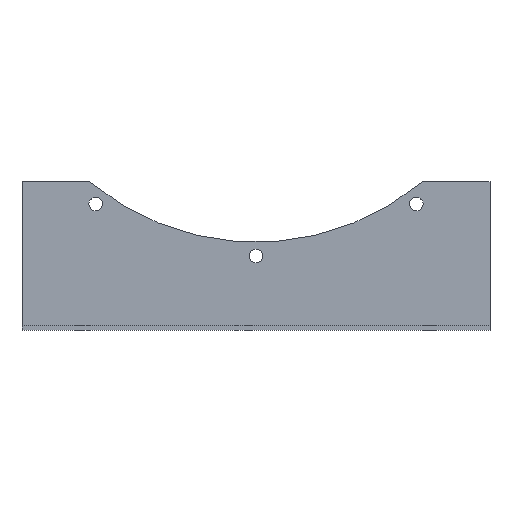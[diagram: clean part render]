
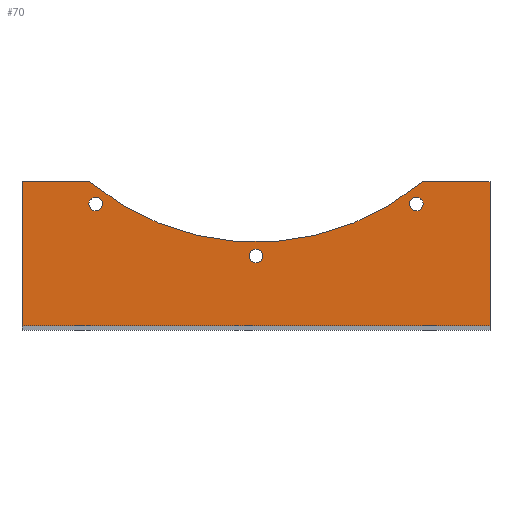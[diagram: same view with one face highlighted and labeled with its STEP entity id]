
A CAD part, top view. The second image highlights one B-rep face of the part: STEP entity #70.
In plain terms, the highlighted planar face has unit normal (0, 0, 1).
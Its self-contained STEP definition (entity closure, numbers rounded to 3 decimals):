
#70=ADVANCED_FACE('',(#143,#144,#145,#146),#147,.T.);
#143=FACE_BOUND('',#220,.T.);
#144=FACE_BOUND('',#221,.T.);
#145=FACE_BOUND('',#222,.T.);
#146=FACE_OUTER_BOUND('',#223,.T.);
#147=PLANE('',#224);
#220=EDGE_LOOP('',(#361,#362));
#221=EDGE_LOOP('',(#363,#364));
#222=EDGE_LOOP('',(#365,#366));
#223=EDGE_LOOP('',(#367,#368,#369,#370,#371,#372));
#224=AXIS2_PLACEMENT_3D('',#373,#374,#375);
#361=ORIENTED_EDGE('',*,*,#458,.T.);
#362=ORIENTED_EDGE('',*,*,#463,.T.);
#363=ORIENTED_EDGE('',*,*,#453,.T.);
#364=ORIENTED_EDGE('',*,*,#466,.T.);
#365=ORIENTED_EDGE('',*,*,#448,.T.);
#366=ORIENTED_EDGE('',*,*,#469,.T.);
#367=ORIENTED_EDGE('',*,*,#471,.T.);
#368=ORIENTED_EDGE('',*,*,#491,.F.);
#369=ORIENTED_EDGE('',*,*,#492,.F.);
#370=ORIENTED_EDGE('',*,*,#493,.F.);
#371=ORIENTED_EDGE('',*,*,#494,.F.);
#372=ORIENTED_EDGE('',*,*,#482,.F.);
#373=CARTESIAN_POINT('',(0.0,4.0,-8.0));
#374=DIRECTION('',(0.0,0.0,1.0));
#375=DIRECTION('',(1.0,0.0,0.0));
#448=EDGE_CURVE('',#532,#529,#533,.T.);
#453=EDGE_CURVE('',#541,#538,#542,.T.);
#458=EDGE_CURVE('',#550,#547,#551,.T.);
#463=EDGE_CURVE('',#547,#550,#557,.T.);
#466=EDGE_CURVE('',#538,#541,#560,.T.);
#469=EDGE_CURVE('',#529,#532,#563,.T.);
#471=EDGE_CURVE('',#565,#566,#567,.T.);
#482=EDGE_CURVE('',#565,#584,#585,.T.);
#491=EDGE_CURVE('',#594,#566,#595,.T.);
#492=EDGE_CURVE('',#596,#594,#597,.T.);
#493=EDGE_CURVE('',#598,#596,#599,.T.);
#494=EDGE_CURVE('',#584,#598,#600,.T.);
#529=VERTEX_POINT('',#643);
#532=VERTEX_POINT('',#647);
#533=CIRCLE('',#648,6.25);
#538=VERTEX_POINT('',#654);
#541=VERTEX_POINT('',#658);
#542=CIRCLE('',#659,6.25);
#547=VERTEX_POINT('',#665);
#550=VERTEX_POINT('',#669);
#551=CIRCLE('',#670,6.25);
#557=CIRCLE('',#677,6.25);
#560=CIRCLE('',#680,6.25);
#563=CIRCLE('',#683,6.25);
#565=VERTEX_POINT('',#685);
#566=VERTEX_POINT('',#686);
#567=CIRCLE('',#687,235.0);
#584=VERTEX_POINT('',#711);
#585=LINE('',#712,#713);
#594=VERTEX_POINT('',#723);
#595=LINE('',#724,#725);
#596=VERTEX_POINT('',#726);
#597=LINE('',#727,#728);
#598=VERTEX_POINT('',#729);
#599=LINE('',#730,#731);
#600=LINE('',#732,#733);
#643=CARTESIAN_POINT('',(6.25,0.,-8.0));
#647=CARTESIAN_POINT('',(-6.25,0.,-8.0));
#648=AXIS2_PLACEMENT_3D('',#779,#780,#781);
#654=CARTESIAN_POINT('',(150.533,50.942,-8.0));
#658=CARTESIAN_POINT('',(140.42,43.595,-8.0));
#659=AXIS2_PLACEMENT_3D('',#787,#788,#789);
#665=CARTESIAN_POINT('',(-140.42,43.595,-8.0));
#669=CARTESIAN_POINT('',(-150.533,50.942,-8.0));
#670=AXIS2_PLACEMENT_3D('',#795,#796,#797);
#677=AXIS2_PLACEMENT_3D('',#805,#806,#807);
#680=AXIS2_PLACEMENT_3D('',#811,#812,#813);
#683=AXIS2_PLACEMENT_3D('',#817,#818,#819);
#685=CARTESIAN_POINT('',(151.079,67.5,-8.0));
#686=CARTESIAN_POINT('',(-151.079,67.5,-8.0));
#687=AXIS2_PLACEMENT_3D('',#820,#821,#822);
#711=CARTESIAN_POINT('',(212.5,67.5,-8.0));
#712=CARTESIAN_POINT('',(0.0,67.5,-8.0));
#713=VECTOR('',#833,1.0);
#723=CARTESIAN_POINT('',(-212.5,67.5,-8.0));
#724=CARTESIAN_POINT('',(0.0,67.5,-8.0));
#725=VECTOR('',#847,1.0);
#726=CARTESIAN_POINT('',(-212.5,-63.5,-8.0));
#727=CARTESIAN_POINT('',(-212.5,2.0,-8.0));
#728=VECTOR('',#848,1.0);
#729=CARTESIAN_POINT('',(212.5,-63.5,-8.0));
#730=CARTESIAN_POINT('',(0.0,-63.5,-8.0));
#731=VECTOR('',#849,1.0);
#732=CARTESIAN_POINT('',(212.5,2.0,-8.0));
#733=VECTOR('',#850,1.0);
#779=CARTESIAN_POINT('',(0.0,0.0,-8.0));
#780=DIRECTION('',(0.0,0.0,-1.0));
#781=DIRECTION('',(1.0,0.0,0.0));
#787=CARTESIAN_POINT('',(145.477,47.268,-8.0));
#788=DIRECTION('',(0.0,0.0,-1.0));
#789=DIRECTION('',(0.809,0.588,0.0));
#795=CARTESIAN_POINT('',(-145.477,47.268,-8.0));
#796=DIRECTION('',(0.0,-0.0,-1.0));
#797=DIRECTION('',(0.809,-0.588,0.0));
#805=CARTESIAN_POINT('',(-145.477,47.268,-8.0));
#806=DIRECTION('',(0.0,-0.0,-1.0));
#807=DIRECTION('',(0.809,-0.588,0.0));
#811=CARTESIAN_POINT('',(145.477,47.268,-8.0));
#812=DIRECTION('',(0.0,0.0,-1.0));
#813=DIRECTION('',(0.809,0.588,0.0));
#817=CARTESIAN_POINT('',(0.0,0.0,-8.0));
#818=DIRECTION('',(0.0,0.0,-1.0));
#819=DIRECTION('',(1.0,0.0,0.0));
#820=CARTESIAN_POINT('',(0.0,247.5,-8.0));
#821=DIRECTION('',(0.0,0.0,-1.0));
#822=DIRECTION('',(1.0,0.0,0.0));
#833=DIRECTION('',(1.0,0.0,-0.0));
#847=DIRECTION('',(1.0,0.0,-0.0));
#848=DIRECTION('',(0.0,1.0,0.0));
#849=DIRECTION('',(-1.0,0.0,0.0));
#850=DIRECTION('',(0.0,-1.0,0.0));
